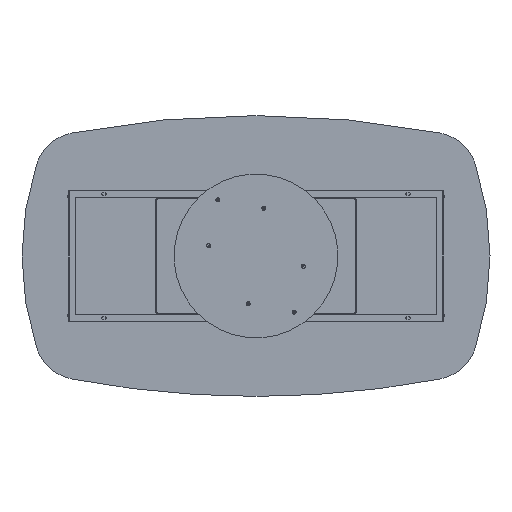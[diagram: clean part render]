
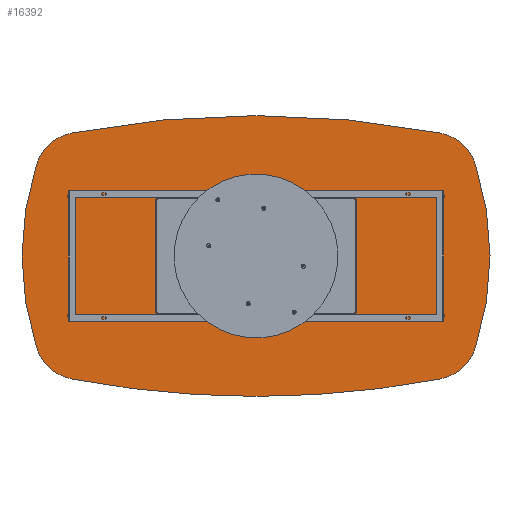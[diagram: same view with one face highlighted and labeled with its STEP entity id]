
A CAD part, front view. The second image highlights one B-rep face of the part: STEP entity #16392.
In plain terms, the highlighted planar face has unit normal (0, -1, 0).
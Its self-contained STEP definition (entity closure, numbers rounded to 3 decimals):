
#190 = DIRECTION ( 'NONE',  ( 0., 0., 1. ) ) ;
#322 = DIRECTION ( 'NONE',  ( 0., 0., 1. ) ) ;
#579 = CARTESIAN_POINT ( 'NONE',  ( -261., 0., 0. ) ) ;
#876 = DIRECTION ( 'NONE',  ( 0., 1., 0. ) ) ;
#896 = VERTEX_POINT ( 'NONE', #11905 ) ;
#1086 = DIRECTION ( 'NONE',  ( 0., 1., 0. ) ) ;
#1442 = ORIENTED_EDGE ( 'NONE', *, *, #5017, .F. ) ;
#1790 = ORIENTED_EDGE ( 'NONE', *, *, #19932, .F. ) ;
#2097 = DIRECTION ( 'NONE',  ( 0., -1., 0. ) ) ;
#2306 = EDGE_CURVE ( 'NONE', #10758, #15055, #10513, .T. ) ;
#2582 = ORIENTED_EDGE ( 'NONE', *, *, #10398, .T. ) ;
#2829 = EDGE_LOOP ( 'NONE', ( #12513, #19985, #1442, #2582, #1790, #20149, #5075, #18395, #5508 ) ) ;
#2951 = CARTESIAN_POINT ( 'NONE',  ( 937.639, 0., -391.646 ) ) ;
#2981 = EDGE_CURVE ( 'NONE', #20398, #7264, #17919, .T. ) ;
#3134 = DIRECTION ( 'NONE',  ( 0., 0., 1. ) ) ;
#3425 = AXIS2_PLACEMENT_3D ( 'NONE', #14161, #15841, #11018 ) ;
#4042 = DIRECTION ( 'NONE',  ( 0., 0., 1. ) ) ;
#4627 = CIRCLE ( 'NONE', #20792, 1261. ) ;
#5017 = EDGE_CURVE ( 'NONE', #8666, #896, #7430, .T. ) ;
#5075 = ORIENTED_EDGE ( 'NONE', *, *, #7182, .T. ) ;
#5089 = AXIS2_PLACEMENT_3D ( 'NONE', #15549, #1086, #7533 ) ;
#5201 = EDGE_CURVE ( 'NONE', #18413, #15055, #8443, .T. ) ;
#5408 = CARTESIAN_POINT ( 'NONE',  ( -784.906, 0., -526.006 ) ) ;
#5508 = ORIENTED_EDGE ( 'NONE', *, *, #2306, .T. ) ;
#5603 = CARTESIAN_POINT ( 'NONE',  ( 747.529, 0., -329.529 ) ) ;
#5816 = DIRECTION ( 'NONE',  ( 0., 0., 1. ) ) ;
#5878 = CIRCLE ( 'NONE', #7560, 4200. ) ;
#5907 = CARTESIAN_POINT ( 'NONE',  ( -937.639, 0., -391.646 ) ) ;
#6378 = CARTESIAN_POINT ( 'NONE',  ( 0., 0., -3600. ) ) ;
#6419 = CARTESIAN_POINT ( 'NONE',  ( 784.906, 0., 526.006 ) ) ;
#6634 = CIRCLE ( 'NONE', #18419, 200. ) ;
#7182 = EDGE_CURVE ( 'NONE', #20398, #19143, #13613, .T. ) ;
#7264 = VERTEX_POINT ( 'NONE', #14546 ) ;
#7430 = CIRCLE ( 'NONE', #5089, 1261. ) ;
#7533 = DIRECTION ( 'NONE',  ( 0., 0., 1. ) ) ;
#7560 = AXIS2_PLACEMENT_3D ( 'NONE', #14624, #19279, #17787 ) ;
#8443 = CIRCLE ( 'NONE', #11839, 4200. ) ;
#8666 = VERTEX_POINT ( 'NONE', #5907 ) ;
#8788 = FACE_OUTER_BOUND ( 'NONE', #2829, .T. ) ;
#9093 = PLANE ( 'NONE',  #10493 ) ;
#9922 = CARTESIAN_POINT ( 'NONE',  ( -747.529, 0., 329.529 ) ) ;
#10167 = AXIS2_PLACEMENT_3D ( 'NONE', #16755, #10241, #322 ) ;
#10241 = DIRECTION ( 'NONE',  ( 0., -1., 0. ) ) ;
#10398 = EDGE_CURVE ( 'NONE', #8666, #16042, #6634, .T. ) ;
#10493 = AXIS2_PLACEMENT_3D ( 'NONE', #12271, #11965, #5816 ) ;
#10513 = CIRCLE ( 'NONE', #10167, 200. ) ;
#10758 = VERTEX_POINT ( 'NONE', #14089 ) ;
#11018 = DIRECTION ( 'NONE',  ( 0., 0., 1. ) ) ;
#11449 = DIRECTION ( 'NONE',  ( 0., 0., 1. ) ) ;
#11595 = AXIS2_PLACEMENT_3D ( 'NONE', #9922, #2097, #15094 ) ;
#11839 = AXIS2_PLACEMENT_3D ( 'NONE', #6378, #13017, #11449 ) ;
#11905 = CARTESIAN_POINT ( 'NONE',  ( -937.639, 0., 391.646 ) ) ;
#11965 = DIRECTION ( 'NONE',  ( 0., 1., 0. ) ) ;
#12271 = CARTESIAN_POINT ( 'NONE',  ( -130.5, 0., 1800. ) ) ;
#12512 = CARTESIAN_POINT ( 'NONE',  ( 784.906, 0., -526.006 ) ) ;
#12513 = ORIENTED_EDGE ( 'NONE', *, *, #5201, .F. ) ;
#12552 = EDGE_CURVE ( 'NONE', #10758, #19143, #4627, .T. ) ;
#12769 = DIRECTION ( 'NONE',  ( 0., -1., 0. ) ) ;
#13017 = DIRECTION ( 'NONE',  ( 0., 1., 0. ) ) ;
#13613 = CIRCLE ( 'NONE', #15945, 200. ) ;
#14089 = CARTESIAN_POINT ( 'NONE',  ( 937.639, 0., 391.646 ) ) ;
#14161 = CARTESIAN_POINT ( 'NONE',  ( 0., 0., 3600. ) ) ;
#14427 = CARTESIAN_POINT ( 'NONE',  ( -747.529, 0., -329.529 ) ) ;
#14546 = CARTESIAN_POINT ( 'NONE',  ( 0., 0., -600. ) ) ;
#14624 = CARTESIAN_POINT ( 'NONE',  ( 0., 0., 3600. ) ) ;
#14635 = DIRECTION ( 'NONE',  ( 0., -1., 0. ) ) ;
#15055 = VERTEX_POINT ( 'NONE', #6419 ) ;
#15094 = DIRECTION ( 'NONE',  ( 0., 0., 1. ) ) ;
#15549 = CARTESIAN_POINT ( 'NONE',  ( 261., 0., 0. ) ) ;
#15841 = DIRECTION ( 'NONE',  ( 0., 1., 0. ) ) ;
#15945 = AXIS2_PLACEMENT_3D ( 'NONE', #5603, #12769, #3134 ) ;
#16042 = VERTEX_POINT ( 'NONE', #5408 ) ;
#16392 = ADVANCED_FACE ( 'NONE', ( #8788 ), #9093, .F. ) ;
#16755 = CARTESIAN_POINT ( 'NONE',  ( 747.529, 0., 329.529 ) ) ;
#17787 = DIRECTION ( 'NONE',  ( 0., 0., 1. ) ) ;
#17906 = CARTESIAN_POINT ( 'NONE',  ( -784.906, 0., 526.006 ) ) ;
#17919 = CIRCLE ( 'NONE', #3425, 4200. ) ;
#18002 = EDGE_CURVE ( 'NONE', #18413, #896, #20646, .T. ) ;
#18395 = ORIENTED_EDGE ( 'NONE', *, *, #12552, .F. ) ;
#18413 = VERTEX_POINT ( 'NONE', #17906 ) ;
#18419 = AXIS2_PLACEMENT_3D ( 'NONE', #14427, #14635, #190 ) ;
#19143 = VERTEX_POINT ( 'NONE', #2951 ) ;
#19279 = DIRECTION ( 'NONE',  ( 0., 1., 0. ) ) ;
#19932 = EDGE_CURVE ( 'NONE', #7264, #16042, #5878, .T. ) ;
#19985 = ORIENTED_EDGE ( 'NONE', *, *, #18002, .T. ) ;
#20149 = ORIENTED_EDGE ( 'NONE', *, *, #2981, .F. ) ;
#20398 = VERTEX_POINT ( 'NONE', #12512 ) ;
#20646 = CIRCLE ( 'NONE', #11595, 200. ) ;
#20792 = AXIS2_PLACEMENT_3D ( 'NONE', #579, #876, #4042 ) ;
